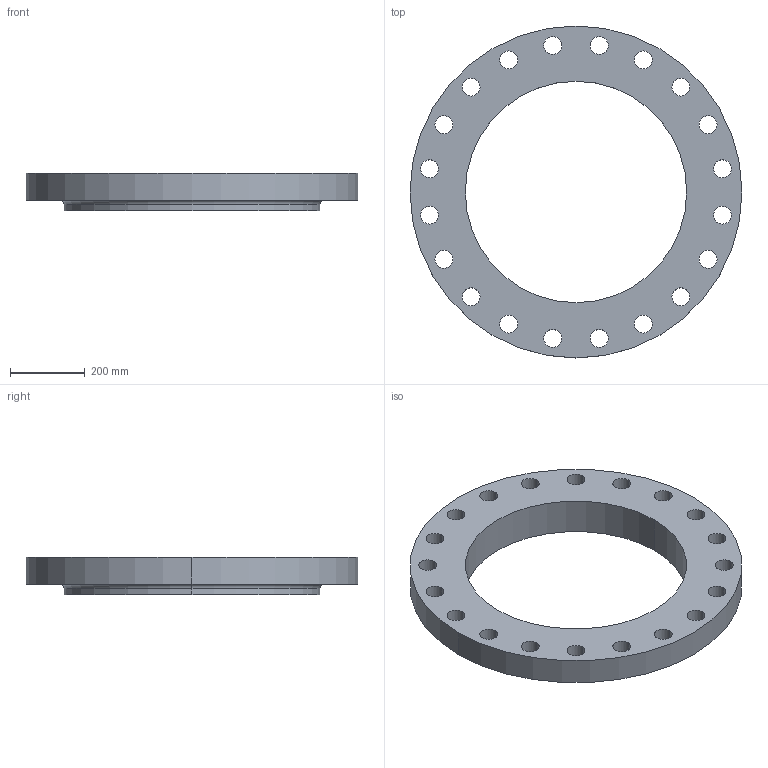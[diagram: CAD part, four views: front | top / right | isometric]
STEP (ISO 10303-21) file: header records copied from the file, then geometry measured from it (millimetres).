
FILE_DESCRIPTION (( 'STEP AP214' ), '1' );
FILE_NAME ('PN40 DN600 Type 13 - Type A Face.STEP', '2018-12-28T23:00:17', ( '' ), ( '' ), 'SwSTEP 2.0', 'SolidWorks 2019', '' );
FILE_SCHEMA (( 'AUTOMOTIVE_DESIGN' ));
Length unit declared in the file: millimetre
Products named in the file (1): PN40 DN600 Type 13 - Type A Face
Bounding box: 890 x 890 x 100 mm (x, y, z)
Volume: 24936995.7 mm3; surface area: 1272758.4 mm2
Topology: 1 solids, 1 shells, 51 faces, 142 edges, 94 vertices
Faces by surface type: cylinder 46, plane 3, torus 2
Entity records: 1814 total; most frequent: DIRECTION 342, CARTESIAN_POINT 288, ORIENTED_EDGE 284, AXIS2_PLACEMENT_3D 148, EDGE_CURVE 142, CIRCLE 96, VERTEX_POINT 94, EDGE_LOOP 94
